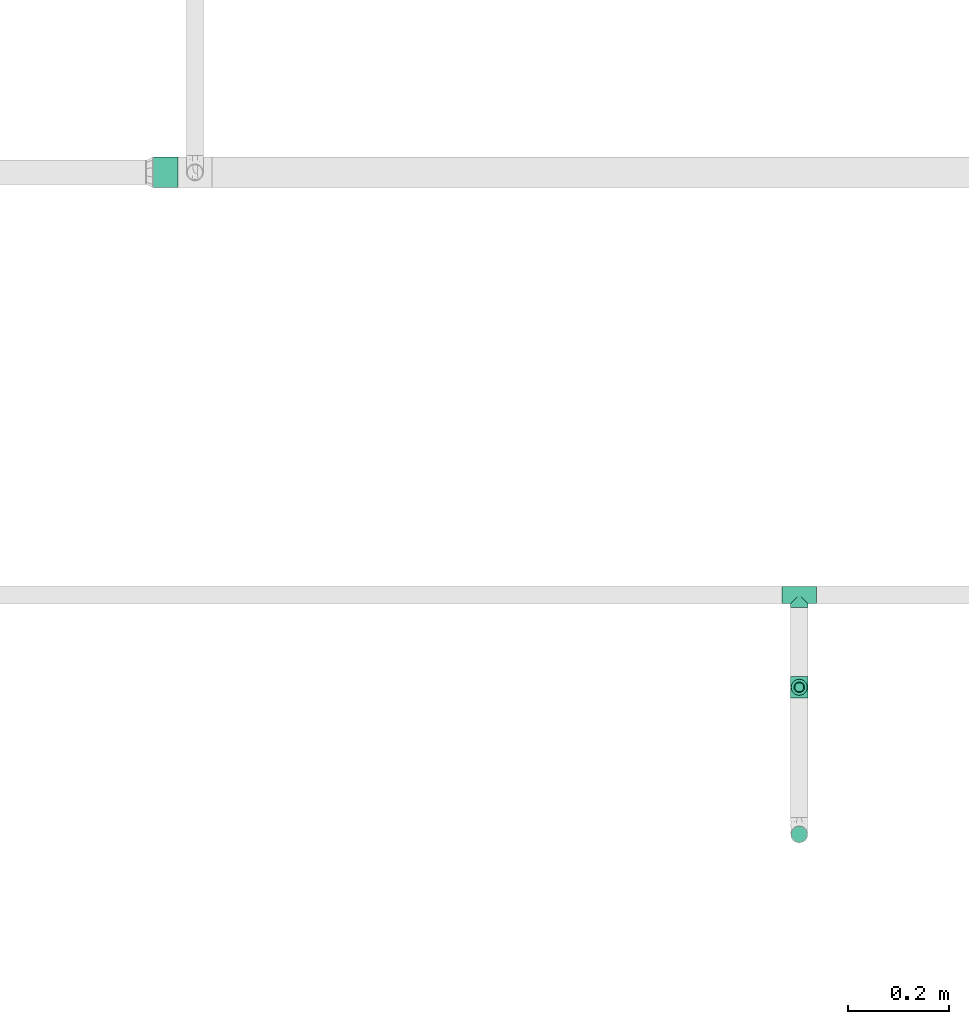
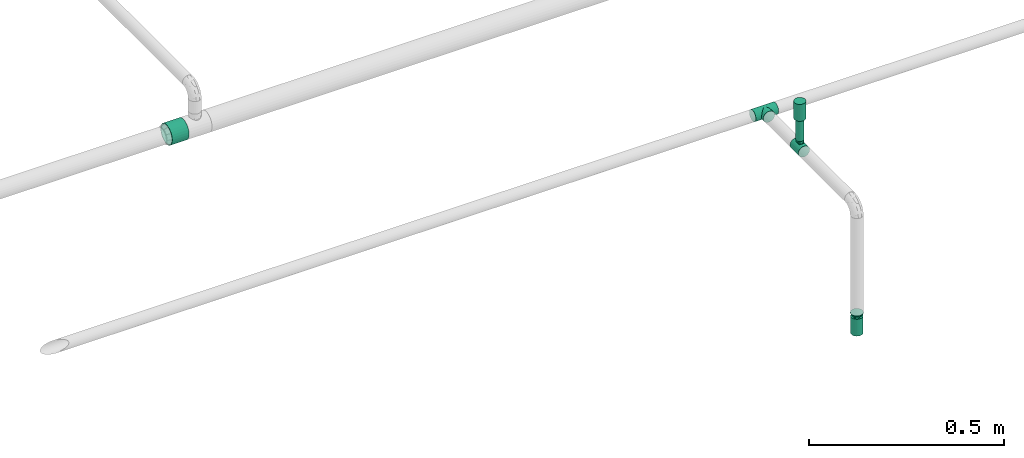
# One storey, part 43 of 51: 3 flow fittings, 2 flow segments, 2 flow terminals.
"""IFC2X3 building model written with IfcOpenShell, lengths in millimetres."""

from ifc_helpers import new_model, entity, si_unit, converted_unit, derived_unit, direction, frame, origin_with_axes, origin_2d_with_axis, place, context, subcontext, project, spatial, hollow_circle, extrude, open_shell, surface_model, source, transform, mapped, type_object, element, save


model = new_model("IFC2X3")

# Units and contexts
model_context = context("Model", 3, precision=0.01, world=frame((0.0, 4.29681676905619e-09, 0.0)), true_north=direction((4.01073788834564e-13, 1.0)))
plan_context = context("Plan", 3, precision=0.01, world=frame((0.0, 4.29681676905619e-09, 0.0)), true_north=direction((4.01073788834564e-13, 1.0)))
body_context = subcontext(model_context, "Body", "Model", "MODEL_VIEW")
ifc_project = project(units=[converted_unit("PLANEANGLEUNIT", "DEGREE", entity("IfcPositiveLengthMeasure", 0.0174532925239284), si_unit("PLANEANGLEUNIT", "RADIAN"), dimensions=[0, 0, 0, 0, 0, 0, 0]), si_unit("AREAUNIT", "SQUARE_METRE"), si_unit("LENGTHUNIT", "METRE", prefix="MILLI"), si_unit("MASSUNIT", "GRAM", prefix="KILO"), si_unit("POWERUNIT", "WATT"), si_unit("PRESSUREUNIT", "PASCAL"), si_unit("FORCEUNIT", "NEWTON", prefix="KILO"), si_unit("ELECTRICVOLTAGEUNIT", "VOLT"), si_unit("ELECTRICCURRENTUNIT", "AMPERE"), si_unit("THERMODYNAMICTEMPERATUREUNIT", "DEGREE_CELSIUS"), si_unit("TIMEUNIT", "SECOND"), si_unit("VOLUMEUNIT", "CUBIC_METRE"), derived_unit("LINEARVELOCITYUNIT", [(si_unit("LENGTHUNIT", "METRE"), 1), (si_unit("TIMEUNIT", "SECOND"), -1)]), derived_unit("VOLUMETRICFLOWRATEUNIT", [(si_unit("VOLUMEUNIT", "CUBIC_METRE"), 1), (si_unit("TIMEUNIT", "SECOND"), -1)]), derived_unit("THERMALTRANSMITTANCEUNIT", [(si_unit("POWERUNIT", "WATT"), 1), (si_unit("THERMODYNAMICTEMPERATUREUNIT", "KELVIN"), -1), (si_unit("AREAUNIT", "SQUARE_METRE"), -1)]), derived_unit("SOUNDPRESSUREUNIT", [(si_unit("PRESSUREUNIT", "PASCAL"), 1)])], contexts=[model_context, plan_context])

# Site, building, storey
site_placement = place(None, frame((0.0, -4.29681676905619e-09, 0.0), z_axis=(0.0, 0.0, 1.0), x_axis=(1.0, 0.0, 0.0)))
site = spatial("IfcSite", under=ifc_project, at=site_placement, Name="ENGM", CompositionType="ELEMENT")
building_placement = place(site_placement, frame((0.0, 4.29681676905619e-09, 0.0), z_axis=(0.0, 0.0, 1.0), x_axis=(1.0, 0.0, 0.0)))
building = spatial("IfcBuilding", under=site, at=building_placement, Name="TH", CompositionType="ELEMENT")
storey_placement = place(building_placement, frame((0.0, 0.0, 210200.0), z_axis=(0.0, 0.0, 1.0), x_axis=(1.0, 0.0, 0.0)))
storey = spatial("IfcBuildingStorey", under=building, at=storey_placement, Name="Nivå F - 0,7 m", CompositionType="ELEMENT", Elevation=210200.0)

# Flow fittings
pipe_fitting_type_1 = type_object("IfcPipeFittingType", Name="magi_pipe_fe_reducer_centric_short_NOR", PredefinedType="TRANSITION")
shared_shape_1 = source(origin_with_axes(), body_context, "Body", "SurfaceModel", [
    surface_model("IfcShellBasedSurfaceModel", [(-2.0, -7.56604, -7.56604), (-2.0, -10.33541, -2.76936), (-2.0, -5.35, -9.26647), (12.4, 11.9501, 11.9501), (12.4, 0.0, 16.9), (12.4, 11.9501, -11.9501), (12.4, 16.9, 0.0), (0.0, -10.7, 0.0), (0.0, -5.35, 9.26647), (0.0, -5.35, -9.26647), (12.4, -15.66253, -2.98753), (12.4, -16.9, 0.0), (12.4, -11.9501, -11.9501), (0.0, -6.6875, -6.94985), (12.4, -8.96258, -13.18758), (0.0, 10.7, 0.0), (12.4, 15.66253, -2.98753), (12.4, -5.97505, -14.42505), (12.4, 8.96258, -13.18758), (0.0, 6.6875, -6.94985), (12.4, 5.97505, -14.42505), (0.0, 5.35, -9.26647), (0.0, -9.3625, -2.31662), (0.0, -8.025, -4.63324), (12.4, -14.42505, -5.97505), (12.4, 14.42505, -5.97505), (0.0, 8.025, -4.63324), (0.0, 9.3625, -2.31662), (12.4, 13.18758, -8.96258), (12.4, -13.18758, -8.96258), (12.4, 15.66253, 2.98753), (0.0, 6.6875, 6.94985), (12.4, 8.96258, 13.18758), (12.4, -15.66253, 2.98753), (0.0, 5.35, 9.26647), (12.4, 5.97505, 14.42505), (12.4, -8.96258, 13.18758), (0.0, -6.6875, 6.94985), (12.4, -11.9501, 11.9501), (12.4, -5.97505, 14.42505), (0.0, 9.3625, 2.31662), (0.0, 8.025, 4.63324), (12.4, 14.42505, 5.97505), (12.4, -14.42505, 5.97505), (0.0, -8.025, 4.63324), (0.0, -9.3625, 2.31662), (12.4, -13.18758, 8.96258), (12.4, 13.18758, 8.96258), (14.4, -11.9501, -11.9501), (14.4, -8.45, -14.63583), (14.4, -4.37404, -16.32415), (14.4, 8.45, -14.63583), (14.4, 16.9, 0.0), (14.4, -14.63583, -8.45), (14.4, -16.32415, -4.37404), (14.4, -4.37404, 16.32415), (14.4, 4.37404, -16.32415), (14.4, 0.0, -16.9), (14.4, 14.63583, -8.45), (14.4, 16.32415, -4.37404), (14.4, 11.9501, -11.9501), (14.4, -16.32415, 4.37404), (14.4, -16.9, 0.0), (14.4, -11.9501, 11.9501), (14.4, -14.63583, 8.45), (14.4, -8.45, 14.63583), (14.4, 0.0, 16.9), (14.4, 16.32415, 4.37404), (14.4, 14.63583, 8.45), (14.4, 11.9501, 11.9501), (14.4, 8.45, 14.63583), (14.4, 4.37404, 16.32415), (12.4, 14.63583, 8.45), (12.4, -4.37404, 16.32415), (12.4, -8.45, 14.63583), (12.4, -16.32415, 4.37404), (12.4, -14.63583, 8.45), (12.4, 8.45, 14.63583), (12.4, 4.37404, 16.32415), (12.4, 16.32415, 4.37404), (12.4, 16.32415, -4.37404), (12.4, 8.45, -14.63583), (12.4, -16.32415, -4.37404), (12.4, -14.63583, -8.45), (12.4, -4.37404, -16.32415), (12.4, -8.45, -14.63583), (12.4, 14.63583, -8.45), (12.4, 4.37404, -16.32415), (12.4, 0.0, -16.9), (-2.0, -2.76936, 10.33541), (-2.0, 0.0, 10.7), (-2.0, -10.33541, 2.76936), (-2.0, -5.35, 9.26647), (-2.0, -7.56604, 7.56604), (-2.0, -9.26647, 5.35), (-2.0, 9.26647, 5.35), (-2.0, 5.35, 9.26647), (-2.0, 7.56604, 7.56604), (-2.0, 2.76936, 10.33541), (-2.0, 10.7, 0.0), (-2.0, 10.33541, -2.76936), (-2.0, 10.33541, 2.76936), (-2.0, -9.26647, -5.35), (-2.0, 5.35, -9.26647), (-2.0, -2.76936, -10.33541), (-2.0, 9.26647, -5.35), (-2.0, 7.56604, -7.56604), (-2.0, 2.76936, -10.33541), (-2.0, 0.0, -10.7), (-2.0, -10.7, 0.0), (0.0, -2.76936, -10.33541), (0.0, 0.0, -10.7), (0.0, -7.56604, -7.56604), (0.0, -10.33541, -2.76936), (0.0, 10.33541, -2.76936), (0.0, -9.26647, -5.35), (0.0, 9.26647, 5.35), (0.0, 2.76936, -10.33541), (0.0, 9.26647, -5.35), (0.0, 7.56604, -7.56604), (0.0, -10.33541, 2.76936), (0.0, -7.56604, 7.56604), (0.0, -9.26647, 5.35), (0.0, 0.0, 10.7), (0.0, -2.76936, 10.33541), (0.0, 10.33541, 2.76936), (0.0, 2.76936, 10.33541), (0.0, 7.56604, 7.56604), (12.4, -2.98753, -15.66253), (0.0, -2.675, -9.26647), (0.0, 2.675, -9.26647), (12.4, 2.98753, -15.66253), (0.0, 0.0, -9.26647), (12.4, 2.98753, 15.66253), (0.0, 2.675, 9.26647), (0.0, -2.675, 9.26647), (12.4, -2.98753, 15.66253), (0.0, 0.0, 9.26647)], [open_shell([[[0, 1, 2]], [[3, 4, 5]], [[5, 6, 3]], [[7, 8, 9]], [[10, 11, 7]], [[12, 13, 14]], [[15, 6, 16]], [[9, 17, 14]], [[18, 19, 5]], [[18, 20, 21]], [[22, 23, 24]], [[25, 26, 27]], [[26, 25, 28]], [[29, 24, 23]], [[30, 6, 15]], [[3, 31, 32]], [[7, 11, 33]], [[34, 35, 32]], [[36, 37, 38]], [[36, 39, 8]], [[40, 41, 42]], [[43, 44, 45]], [[44, 43, 46]], [[47, 42, 41]], [[48, 49, 50]], [[48, 50, 51]], [[51, 52, 48]], [[53, 48, 54]], [[48, 55, 54]], [[56, 51, 57]], [[51, 50, 57]], [[58, 59, 60]], [[51, 60, 59]], [[59, 52, 51]], [[61, 62, 54]], [[63, 64, 61]], [[55, 63, 61]], [[48, 52, 55]], [[65, 63, 55]], [[66, 55, 52]], [[67, 68, 66]], [[66, 52, 67]], [[69, 70, 68]], [[70, 66, 68]], [[71, 66, 70]], [[61, 54, 55]], [[4, 72, 73]], [[74, 73, 75]], [[75, 76, 38]], [[74, 75, 38]], [[75, 73, 72]], [[3, 72, 77]], [[4, 78, 77]], [[77, 72, 4]], [[75, 72, 79]], [[6, 80, 79]], [[81, 75, 79]], [[12, 82, 75]], [[83, 82, 12]], [[84, 85, 12]], [[12, 75, 81]], [[12, 81, 84]], [[86, 5, 80]], [[81, 80, 5]], [[87, 88, 81]], [[81, 79, 80]], [[81, 88, 84]], [[11, 75, 82]], [[6, 59, 80]], [[80, 58, 86]], [[81, 5, 51]], [[60, 5, 86]], [[87, 81, 56]], [[59, 58, 80]], [[6, 52, 59]], [[81, 51, 56]], [[51, 5, 60]], [[86, 58, 60]], [[87, 56, 57]], [[57, 88, 87]], [[88, 50, 84]], [[84, 49, 85]], [[83, 12, 53]], [[48, 12, 85]], [[82, 83, 54]], [[49, 48, 85]], [[84, 50, 49]], [[82, 54, 62]], [[54, 83, 53]], [[12, 48, 53]], [[82, 62, 11]], [[57, 50, 88]], [[11, 61, 75]], [[75, 64, 76]], [[74, 38, 65]], [[63, 38, 76]], [[73, 74, 55]], [[61, 64, 75]], [[11, 62, 61]], [[74, 65, 55]], [[65, 38, 63]], [[76, 64, 63]], [[73, 55, 66]], [[66, 4, 73]], [[4, 71, 78]], [[78, 70, 77]], [[72, 3, 68]], [[69, 3, 77]], [[79, 72, 67]], [[70, 69, 77]], [[78, 71, 70]], [[79, 67, 52]], [[67, 72, 68]], [[3, 69, 68]], [[79, 52, 6]], [[66, 71, 4]], [[89, 90, 91]], [[92, 89, 93]], [[91, 94, 93]], [[89, 91, 93]], [[95, 91, 90]], [[96, 97, 98]], [[95, 98, 97]], [[99, 100, 101]], [[90, 98, 95]], [[100, 95, 101]], [[1, 91, 95]], [[1, 95, 100]], [[102, 1, 0]], [[100, 2, 1]], [[2, 103, 104]], [[105, 106, 100]], [[103, 100, 106]], [[107, 108, 103]], [[2, 100, 103]], [[103, 108, 104]], [[109, 91, 1]], [[110, 111, 9]], [[112, 9, 113]], [[113, 9, 114]], [[115, 112, 113]], [[113, 114, 116]], [[117, 21, 111]], [[21, 9, 111]], [[118, 114, 119]], [[21, 119, 114]], [[21, 114, 9]], [[120, 7, 113]], [[121, 122, 120]], [[116, 121, 113]], [[121, 123, 124]], [[8, 121, 124]], [[123, 121, 116]], [[15, 125, 114]], [[114, 125, 116]], [[34, 126, 127]], [[116, 127, 126]], [[116, 126, 123]], [[121, 120, 113]], [[99, 114, 100]], [[100, 118, 105]], [[103, 106, 21]], [[119, 106, 105]], [[107, 103, 117]], [[114, 118, 100]], [[99, 15, 114]], [[103, 21, 117]], [[21, 106, 119]], [[105, 118, 119]], [[107, 117, 111]], [[111, 108, 107]], [[108, 110, 104]], [[104, 9, 2]], [[102, 0, 115]], [[112, 0, 2]], [[1, 102, 113]], [[9, 112, 2]], [[104, 110, 9]], [[1, 113, 7]], [[113, 102, 115]], [[0, 112, 115]], [[1, 7, 109]], [[111, 110, 108]], [[109, 120, 91]], [[91, 122, 94]], [[92, 93, 8]], [[121, 93, 94]], [[89, 92, 124]], [[120, 122, 91]], [[109, 7, 120]], [[92, 8, 124]], [[8, 93, 121]], [[94, 122, 121]], [[89, 124, 123]], [[123, 90, 89]], [[90, 126, 98]], [[98, 34, 96]], [[95, 97, 116]], [[127, 97, 96]], [[101, 95, 125]], [[34, 127, 96]], [[98, 126, 34]], [[101, 125, 15]], [[125, 95, 116]], [[97, 127, 116]], [[101, 15, 99]], [[123, 126, 90]], [[4, 38, 11]], [[11, 88, 5]], [[88, 11, 12]], [[4, 11, 5]], [[8, 34, 15]], [[21, 9, 15]], [[8, 15, 9]], [[128, 17, 129]], [[16, 25, 27]], [[130, 21, 20]], [[18, 21, 19]], [[24, 10, 22]], [[26, 28, 19]], [[20, 131, 130]], [[9, 129, 17]], [[13, 12, 29]], [[9, 14, 13]], [[129, 132, 128]], [[130, 131, 132]], [[29, 23, 13]], [[132, 131, 88]], [[16, 27, 15]], [[22, 10, 7]], [[5, 19, 28]], [[132, 88, 128]], [[133, 35, 134]], [[33, 43, 45]], [[135, 8, 39]], [[36, 8, 37]], [[42, 30, 40]], [[44, 46, 37]], [[39, 136, 135]], [[34, 134, 35]], [[31, 3, 47]], [[34, 32, 31]], [[134, 137, 133]], [[135, 136, 137]], [[47, 41, 31]], [[137, 136, 4]], [[33, 45, 7]], [[40, 30, 15]], [[38, 37, 46]], [[137, 4, 133]]])]),
])
flow_fitting_1_placement = place(storey_placement, frame((906700.0, 485725.40642, 2596.95199999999), z_axis=(1.0, 0.0, 0.0), x_axis=(0.0, 0.0, 1.0)))
element("IfcFlowFitting", 1, at=flow_fitting_1_placement, inside=storey, type_object=pipe_fitting_type_1, Name="magi_pipe_fe_reducer_centric_short_NOR", context=body_context, shape_type="MappedRepresentation", body=[
    mapped(shared_shape_1, transform((0.0, 0.0, 0.0), scale=1.0)),
])
pipe_fitting_type_2 = type_object("IfcPipeFittingType", Name="magi_pipe_fe_tee_centric_90_NOR", PredefinedType="JUNCTION")
shared_shape_2 = source(origin_with_axes(), body_context, "Body", "SurfaceModel", [
    surface_model("IfcShellBasedSurfaceModel", [(-33.8, 4.37404, -16.32415), (-33.8, 0.0, -16.9), (-33.8, 16.32415, -4.37404), (-33.8, 8.45, -14.63583), (-33.8, 11.9501, -11.9501), (-33.8, 14.63583, -8.45), (-33.8, -16.9, 0.0), (-33.8, -11.9501, -11.9501), (-33.8, -14.63583, -8.45), (-33.8, -8.45, -14.63583), (-33.8, -4.37404, -16.32415), (-33.8, -16.32415, -4.37404), (-33.8, 14.63583, 8.45), (-33.8, 16.32415, 4.37404), (-33.8, -8.45, 14.63583), (-33.8, 8.45, 14.63583), (-33.8, 11.9501, 11.9501), (-33.8, 4.37404, 16.32415), (-33.8, 0.0, 16.9), (-33.8, -11.9501, 11.9501), (-33.8, -14.63583, 8.45), (-33.8, -16.32415, 4.37404), (-33.8, -4.37404, 16.32415), (-33.8, 16.9, 0.0), (33.8, 4.37404, -16.32415), (33.8, -16.9, 0.0), (33.8, 0.0, -16.9), (33.8, 14.63583, -8.45), (33.8, 8.45, -14.63583), (33.8, 16.32415, -4.37404), (33.8, 11.9501, -11.9501), (33.8, -16.32415, 4.37404), (33.8, -8.45, -14.63583), (33.8, -4.37404, -16.32415), (33.8, -11.9501, -11.9501), (33.8, -14.63583, -8.45), (33.8, -16.32415, -4.37404), (33.8, 16.32415, 4.37404), (33.8, 8.45, 14.63583), (33.8, 14.63583, 8.45), (33.8, 11.9501, 11.9501), (33.8, -8.45, 14.63583), (33.8, 4.37404, 16.32415), (33.8, -14.63583, 8.45), (33.8, -11.9501, 11.9501), (33.8, 0.0, 16.9), (33.8, -4.37404, 16.32415), (33.8, 16.9, 0.0), (16.28698, -16.28698, 4.51047), (16.9, -16.9, 0.0), (14.62704, -14.62704, 8.4652), (9.47213, -9.47213, 13.99602), (12.26343, -12.26343, 11.62834), (-16.9, -16.9, 0.0), (-16.28698, -16.28698, 4.51047), (-14.62704, -14.62704, 8.4652), (-12.26343, -12.26343, 11.62834), (-9.47213, -9.47213, 13.99602), (-6.42894, -6.42894, 15.62942), (6.42894, -6.42894, 15.62942), (3.24522, -3.24522, 16.58549), (0.0, 0.0, 16.9), (-3.24522, -3.24522, 16.58549), (3.24522, -3.24522, -16.58549), (0.0, 0.0, -16.9), (-3.24522, -3.24522, -16.58549), (-6.42894, -6.42894, -15.62942), (6.42894, -6.42894, -15.62942), (9.47213, -9.47213, -13.99602), (12.26343, -12.26343, -11.62834), (14.62704, -14.62704, -8.4652), (16.28698, -16.28698, -4.51047), (-9.47213, -9.47213, -13.99602), (-12.26343, -12.26343, -11.62834), (-16.28698, -16.28698, -4.51047), (-14.62704, -14.62704, -8.4652), (4.37404, -25.35, -16.32415), (-16.9, -25.35, 0.0), (0.0, -25.35, -16.9), (14.63583, -25.35, -8.45), (8.45, -25.35, -14.63583), (16.32415, -25.35, -4.37404), (11.9501, -25.35, -11.9501), (-11.9501, -25.35, -11.9501), (-8.45, -25.35, -14.63583), (-4.37404, -25.35, -16.32415), (-14.63583, -25.35, -8.45), (-16.32415, -25.35, -4.37404), (16.9, -25.35, 0.0), (8.45, -25.35, 14.63583), (16.32415, -25.35, 4.37404), (14.63583, -25.35, 8.45), (-8.45, -25.35, 14.63583), (11.9501, -25.35, 11.9501), (4.37404, -25.35, 16.32415), (-16.32415, -25.35, 4.37404), (-11.9501, -25.35, 11.9501), (-14.63583, -25.35, 8.45), (0.0, -25.35, 16.9), (-4.37404, -25.35, 16.32415)], [open_shell([[[0, 1, 2]], [[3, 0, 4]], [[0, 2, 5]], [[4, 0, 5]], [[6, 2, 1]], [[7, 8, 9]], [[1, 10, 9]], [[11, 6, 8]], [[1, 9, 8]], [[1, 8, 6]], [[6, 12, 2]], [[12, 13, 2]], [[14, 12, 6]], [[12, 14, 15]], [[16, 12, 15]], [[17, 15, 18]], [[19, 14, 20]], [[21, 20, 14]], [[22, 18, 14]], [[14, 6, 21]], [[14, 18, 15]], [[23, 2, 13]], [[24, 25, 26]], [[27, 24, 28]], [[27, 29, 24]], [[27, 28, 30]], [[31, 25, 24]], [[26, 32, 33]], [[26, 34, 32]], [[35, 25, 36]], [[35, 34, 26]], [[25, 35, 26]], [[24, 29, 31]], [[29, 37, 38]], [[38, 37, 39]], [[38, 31, 29]], [[38, 39, 40]], [[41, 38, 42]], [[43, 41, 44]], [[41, 43, 31]], [[41, 45, 46]], [[41, 31, 38]], [[42, 45, 41]], [[29, 47, 37]], [[31, 43, 48]], [[25, 31, 49]], [[49, 31, 48]], [[43, 50, 48]], [[44, 41, 51]], [[50, 43, 52]], [[51, 52, 44]], [[52, 43, 44]], [[53, 54, 21]], [[53, 21, 6]], [[21, 54, 20]], [[54, 55, 20]], [[56, 57, 19]], [[19, 20, 56]], [[19, 57, 14]], [[56, 20, 55]], [[14, 57, 58]], [[51, 41, 59]], [[60, 45, 61]], [[59, 46, 60]], [[46, 59, 41]], [[60, 46, 45]], [[61, 45, 42]], [[39, 37, 13]], [[16, 38, 40]], [[12, 40, 39]], [[42, 38, 15]], [[23, 37, 47]], [[62, 61, 18]], [[62, 22, 58]], [[22, 62, 18]], [[58, 22, 14]], [[61, 17, 18]], [[42, 17, 61]], [[15, 17, 42]], [[15, 38, 16]], [[12, 16, 40]], [[13, 12, 39]], [[37, 23, 13]], [[5, 27, 30]], [[23, 47, 29]], [[30, 28, 3]], [[27, 2, 29]], [[26, 33, 63]], [[26, 64, 24]], [[64, 26, 63]], [[28, 24, 0]], [[64, 0, 24]], [[4, 30, 3]], [[2, 27, 5]], [[5, 30, 4]], [[2, 23, 29]], [[65, 66, 10]], [[1, 0, 64]], [[1, 65, 10]], [[66, 9, 10]], [[0, 3, 28]], [[1, 64, 65]], [[63, 33, 67]], [[32, 34, 68]], [[69, 68, 34]], [[35, 70, 69]], [[69, 34, 35]], [[32, 68, 67]], [[36, 25, 49]], [[36, 71, 35]], [[71, 36, 49]], [[35, 71, 70]], [[72, 9, 66]], [[72, 7, 9]], [[7, 72, 73]], [[7, 73, 8]], [[74, 53, 11]], [[75, 74, 8]], [[74, 11, 8]], [[11, 53, 6]], [[75, 8, 73]], [[32, 67, 33]], [[76, 77, 78]], [[79, 76, 80]], [[79, 81, 76]], [[79, 80, 82]], [[77, 76, 81]], [[78, 83, 84]], [[84, 85, 78]], [[86, 77, 87]], [[83, 78, 86]], [[77, 86, 78]], [[81, 88, 77]], [[89, 88, 90]], [[89, 90, 91]], [[92, 77, 89]], [[89, 91, 93]], [[92, 89, 94]], [[95, 96, 97]], [[96, 95, 92]], [[92, 98, 99]], [[95, 77, 92]], [[94, 98, 92]], [[89, 77, 88]], [[77, 95, 53]], [[54, 53, 95]], [[97, 96, 56]], [[96, 92, 57]], [[95, 97, 54]], [[58, 92, 99]], [[55, 54, 97]], [[56, 55, 97]], [[58, 57, 92]], [[98, 61, 62]], [[58, 99, 62]], [[56, 96, 57]], [[62, 99, 98]], [[94, 60, 98]], [[89, 59, 94]], [[91, 90, 48]], [[52, 93, 91]], [[93, 51, 89]], [[49, 90, 88]], [[59, 60, 94]], [[51, 59, 89]], [[49, 48, 90]], [[50, 52, 91]], [[48, 50, 91]], [[51, 93, 52]], [[98, 60, 61]], [[88, 81, 49]], [[71, 49, 81]], [[79, 82, 69]], [[82, 80, 68]], [[81, 79, 71]], [[67, 80, 76]], [[70, 71, 79]], [[69, 70, 79]], [[67, 68, 80]], [[78, 64, 63]], [[67, 76, 63]], [[69, 82, 68]], [[63, 76, 78]], [[85, 65, 78]], [[84, 66, 85]], [[86, 87, 74]], [[86, 73, 83]], [[72, 84, 83]], [[53, 87, 77]], [[66, 65, 85]], [[72, 66, 84]], [[53, 74, 87]], [[75, 73, 86]], [[74, 75, 86]], [[72, 83, 73]], [[78, 65, 64]]])]),
])
flow_fitting_2_placement = place(storey_placement, frame((906700.0, 486201.02538, 2949.56988), z_axis=(0.0, 0.0, -1.0), x_axis=(-1.0, 0.0, 0.0)))
element("IfcFlowFitting", 2, at=flow_fitting_2_placement, inside=storey, type_object=pipe_fitting_type_2, Name="magi_pipe_fe_tee_centric_90_NOR", context=body_context, shape_type="MappedRepresentation", body=[
    mapped(shared_shape_2, transform((0.0, 0.0, 0.0), scale=1.0)),
])
shared_shape_3 = source(origin_with_axes(), body_context, "Body", "SurfaceModel", [
    surface_model("IfcShellBasedSurfaceModel", [(-21.4, 0.0, -16.9), (-21.4, -16.9, 0.0), (-21.4, 4.37404, -16.32415), (-21.4, 8.45, -14.63583), (-21.4, 11.9501, -11.9501), (-21.4, 16.32415, -4.37404), (-21.4, 14.63583, -8.45), (-21.4, -16.32415, 4.37404), (-21.4, -11.9501, -11.9501), (-21.4, -14.63583, -8.45), (-21.4, -8.45, -14.63583), (-21.4, -4.37404, -16.32415), (-21.4, -16.32415, -4.37404), (-21.4, 16.32415, 4.37404), (-21.4, 16.9, 0.0), (-21.4, 8.45, 14.63583), (-21.4, 14.63583, 8.45), (-21.4, -8.45, 14.63583), (-21.4, 11.9501, 11.9501), (-21.4, 4.37404, 16.32415), (-21.4, -11.9501, 11.9501), (-21.4, -14.63583, 8.45), (-21.4, -4.37404, 16.32415), (-21.4, 0.0, 16.9), (21.4, 4.37404, -16.32415), (21.4, -16.32415, -4.37404), (21.4, 0.0, -16.9), (21.4, 14.63583, -8.45), (21.4, 8.45, -14.63583), (21.4, 8.45, 14.63583), (21.4, 11.9501, -11.9501), (21.4, -11.9501, -11.9501), (21.4, -8.45, -14.63583), (21.4, -4.37404, -16.32415), (21.4, -14.63583, -8.45), (21.4, -16.9, 0.0), (21.4, 16.32415, -4.37404), (21.4, 16.32415, 4.37404), (21.4, 14.63583, 8.45), (21.4, -8.45, 14.63583), (21.4, 11.9501, 11.9501), (21.4, 4.37404, 16.32415), (21.4, -14.63583, 8.45), (21.4, -11.9501, 11.9501), (21.4, -16.32415, 4.37404), (21.4, 0.0, 16.9), (21.4, -4.37404, 16.32415), (21.4, 16.9, 0.0), (10.02449, -16.48061, 3.7416), (10.7, -16.9, 0.0), (8.16297, -15.41927, 6.9178), (5.39457, -14.14996, 9.24059), (21.4, -15.47999, 6.41202), (1.90748, -13.21962, 10.5286), (-8.16537, -15.42055, 6.91497), (-21.4, -15.47999, 6.41202), (-10.02486, -16.48083, 3.74061), (-21.4, -16.61207, 2.18702), (-10.36243, -16.69042, 1.8703), (-10.7, -16.9, 0.0), (-5.39553, -14.15033, 9.24003), (-1.91068, -13.22009, 10.52802), (-8.16537, -15.42055, -6.91497), (-21.4, -15.47999, -6.41202), (8.16297, -15.41927, -6.9178), (21.4, -15.47999, -6.41202), (-10.36243, -16.69042, -1.8703), (5.39457, -14.14996, -9.24059), (-21.4, -16.61207, -2.18702), (-10.02486, -16.48083, -3.74061), (1.90748, -13.21962, -10.5286), (10.02449, -16.48061, -3.7416), (-1.91068, -13.22009, -10.52802), (-5.39553, -14.15033, -9.24003), (0.0, -25.35, -10.7), (2.76936, -25.35, -10.33541), (5.35, -25.35, -9.26647), (7.56604, -25.35, -7.56604), (10.33541, -25.35, 2.76936), (9.26647, -25.35, -5.35), (-7.56604, -25.35, -7.56604), (2.76936, -25.35, 10.33541), (-10.7, -25.35, 0.0), (-5.35, -25.35, -9.26647), (-2.76936, -25.35, -10.33541), (-9.26647, -25.35, -5.35), (-10.33541, -25.35, -2.76936), (10.7, -25.35, 0.0), (10.33541, -25.35, -2.76936), (9.26647, -25.35, 5.35), (5.35, -25.35, 9.26647), (7.56604, -25.35, 7.56604), (0.0, -25.35, 10.7), (-10.33541, -25.35, 2.76936), (-7.56604, -25.35, 7.56604), (-9.26647, -25.35, 5.35), (-2.76936, -25.35, 10.33541), (-5.35, -25.35, 9.26647)], [open_shell([[[0, 1, 2]], [[3, 2, 4]], [[2, 5, 6]], [[4, 2, 6]], [[2, 1, 7]], [[8, 9, 10]], [[0, 11, 10]], [[12, 1, 9]], [[10, 9, 1]], [[10, 1, 0]], [[7, 5, 2]], [[13, 14, 15]], [[16, 13, 15]], [[17, 15, 14]], [[18, 16, 15]], [[19, 15, 17]], [[20, 17, 21]], [[7, 21, 17]], [[22, 23, 17]], [[14, 7, 17]], [[17, 23, 19]], [[5, 7, 14]], [[24, 25, 26]], [[27, 24, 28]], [[25, 24, 29]], [[27, 28, 30]], [[29, 24, 27]], [[26, 31, 32]], [[32, 33, 26]], [[26, 25, 34]], [[31, 26, 34]], [[35, 25, 29]], [[27, 36, 37]], [[37, 38, 27]], [[27, 38, 29]], [[39, 35, 29]], [[29, 38, 40]], [[39, 29, 41]], [[42, 39, 43]], [[39, 42, 44]], [[39, 45, 46]], [[44, 35, 39]], [[41, 45, 39]], [[36, 47, 37]], [[35, 44, 48]], [[48, 49, 35]], [[44, 50, 48]], [[42, 43, 51]], [[50, 44, 52]], [[51, 50, 42]], [[53, 51, 43]], [[43, 20, 53]], [[42, 50, 52]], [[54, 21, 55]], [[56, 57, 58]], [[59, 58, 1]], [[56, 54, 7]], [[60, 61, 20]], [[1, 58, 57]], [[60, 21, 54]], [[21, 60, 20]], [[54, 55, 7]], [[61, 53, 20]], [[56, 7, 57]], [[43, 17, 20]], [[23, 46, 45]], [[22, 39, 46]], [[19, 45, 41]], [[38, 37, 13]], [[18, 29, 40]], [[16, 40, 38]], [[41, 29, 15]], [[14, 37, 47]], [[17, 39, 22]], [[22, 46, 23]], [[19, 23, 45]], [[41, 15, 19]], [[15, 29, 18]], [[16, 18, 40]], [[13, 16, 38]], [[37, 14, 13]], [[39, 17, 43]], [[14, 47, 36]], [[36, 27, 5]], [[30, 6, 27]], [[11, 26, 33]], [[2, 28, 24]], [[62, 12, 63]], [[26, 0, 24]], [[33, 32, 10]], [[30, 28, 3]], [[64, 34, 65]], [[6, 5, 27]], [[14, 36, 5]], [[30, 4, 6]], [[1, 66, 59]], [[3, 28, 2]], [[0, 2, 24]], [[26, 11, 0]], [[33, 10, 11]], [[4, 30, 3]], [[32, 8, 10]], [[31, 34, 67]], [[68, 69, 66]], [[67, 70, 31]], [[34, 64, 67]], [[31, 70, 8]], [[25, 35, 71]], [[71, 64, 25]], [[49, 71, 35]], [[25, 64, 65]], [[72, 73, 8]], [[9, 8, 73]], [[73, 62, 9]], [[72, 8, 70]], [[62, 69, 12]], [[69, 68, 12]], [[66, 1, 68]], [[62, 63, 9]], [[31, 8, 32]], [[74, 75, 76]], [[74, 76, 77]], [[78, 77, 79]], [[74, 77, 80]], [[81, 82, 77]], [[74, 83, 84]], [[74, 80, 83]], [[85, 82, 86]], [[82, 85, 80]], [[77, 82, 80]], [[87, 79, 88]], [[77, 78, 81]], [[81, 78, 89]], [[90, 81, 89]], [[90, 89, 91]], [[92, 82, 81]], [[93, 94, 95]], [[94, 93, 92]], [[94, 96, 97]], [[96, 94, 92]], [[82, 92, 93]], [[79, 87, 78]], [[59, 82, 93]], [[56, 95, 94]], [[93, 95, 59]], [[94, 97, 56]], [[59, 95, 56]], [[54, 56, 96]], [[61, 60, 51]], [[54, 50, 60]], [[96, 92, 54]], [[97, 96, 56]], [[81, 50, 92]], [[90, 48, 81]], [[48, 91, 89]], [[90, 91, 48]], [[49, 89, 78]], [[51, 53, 61]], [[50, 51, 60]], [[89, 49, 48]], [[48, 50, 81]], [[49, 78, 87]], [[54, 92, 50]], [[49, 87, 88]], [[71, 79, 77]], [[88, 79, 49]], [[77, 76, 71]], [[49, 79, 71]], [[64, 71, 75]], [[70, 67, 72]], [[64, 73, 67]], [[75, 74, 64]], [[76, 75, 71]], [[62, 74, 84]], [[83, 69, 84]], [[69, 80, 85]], [[83, 80, 69]], [[59, 85, 86]], [[73, 72, 67]], [[62, 73, 64]], [[85, 59, 69]], [[69, 62, 84]], [[59, 86, 82]], [[64, 74, 62]]])]),
])
flow_fitting_3_placement = place(storey_placement, frame((906700.0, 486017.4438, 2949.57822), z_axis=(1.0, 0.0, 0.0), x_axis=(0.0, -0.9999999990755, 4.29999999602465e-05)))
element("IfcFlowFitting", 3, at=flow_fitting_3_placement, inside=storey, type_object=pipe_fitting_type_2, Name="magi_pipe_fe_tee_centric_90_NOR", context=body_context, shape_type="MappedRepresentation", body=[
    mapped(shared_shape_3, transform((0.0, 0.0, 0.0), scale=1.0)),
])

# Flow segments
pipe_segment_type = type_object("IfcPipeSegmentType", Name="Stålrør normaltykke", PredefinedType="RIGIDSEGMENT")
shared_shape_4 = source(origin_with_axes(), body_context, "Body", "SweptSolid", [
    extrude(hollow_circle(Radius=30.1, WallThickness=2.0, at=origin_2d_with_axis()), frame((0.0, 0.0, 0.0), z_axis=(1.0, 0.0, 0.0), x_axis=(0.0, 1.0, 0.0)), (0.0, 0.0, 1.0), 50.0),
])
flow_segment_1_placement = place(storey_placement, frame((905466.11443, 487040.10129, 2819.99995999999), z_axis=(0.0, 0.0, 1.0), x_axis=(-1.0, 0.0, 0.0)))
element("IfcFlowSegment", 4, at=flow_segment_1_placement, inside=storey, type_object=pipe_segment_type, Name="Stålrør normaltykke", context=body_context, shape_type="MappedRepresentation", body=[
    mapped(shared_shape_4, transform((0.0, 0.0, 0.0), scale=1.0)),
])
shared_shape_5 = source(origin_with_axes(), body_context, "Body", "SweptSolid", [
    extrude(hollow_circle(Radius=10.7, WallThickness=2.0, at=origin_2d_with_axis()), frame((0.0, 0.0, 0.0), z_axis=(1.0, 0.0, 0.0), x_axis=(0.0, 1.0, 0.0)), (0.0, 0.0, 1.0), 70.1),
])
flow_segment_2_placement = place(storey_placement, frame((906700.0, 486017.44514, 2974.92822), z_axis=(1.0, 0.0, 0.0), x_axis=(0.0, -2.7999999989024e-05, 0.999999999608)))
element("IfcFlowSegment", 5, at=flow_segment_2_placement, inside=storey, type_object=pipe_segment_type, Name="Stålrør normaltykke", context=body_context, shape_type="MappedRepresentation", body=[
    mapped(shared_shape_5, transform((0.0, 0.0, 0.0), scale=1.0)),
])

# Flow terminals
fire_suppression_terminal_type_1 = type_object("IfcFireSuppressionTerminalType", Name="SP-15-K80-68DGR-STD-HIMLING", PredefinedType="NOTDEFINED")
shared_shape_6 = source(origin_with_axes(), body_context, "Body", "SurfaceModel", [
    surface_model("IfcShellBasedSurfaceModel", [(4.1411, -15.45481, 53.0), (8.0, -13.85641, 53.0), (11.31371, -11.31371, 53.0), (-8.0, -13.85641, 53.0), (15.45481, -4.1411, 53.0), (16.0, 0.0, 53.0), (13.85641, -8.0, 53.0), (0.0, -16.0, 53.0), (-4.1411, -15.45481, 53.0), (-13.85641, -8.0, 53.0), (-11.31371, -11.31371, 53.0), (-15.45481, -4.1411, 53.0), (15.45481, 4.1411, 53.0), (13.85641, 8.0, 53.0), (11.31371, 11.31371, 53.0), (-4.1411, 15.45481, 53.0), (8.0, 13.85641, 53.0), (4.1411, 15.45481, 53.0), (0.0, 16.0, 53.0), (-13.85641, 8.0, 53.0), (-15.45481, 4.1411, 53.0), (-16.0, 0.0, 53.0), (-11.31371, 11.31371, 53.0), (-8.0, 13.85641, 53.0), (0.0, 16.0, 0.0), (4.1411, 15.45481, 0.0), (8.0, 13.85641, 0.0), (-4.1411, 15.45481, 0.0), (11.31371, 11.31371, 0.0), (13.85641, 8.0, 0.0), (15.45481, 4.1411, 0.0), (-15.45481, -4.1411, 0.0), (-11.31371, 11.31371, 0.0), (-8.0, 13.85641, 0.0), (-13.85641, 8.0, 0.0), (-15.45481, 4.1411, 0.0), (-16.0, 0.0, 0.0), (4.1411, -15.45481, 0.0), (16.0, 0.0, 0.0), (15.45481, -4.1411, 0.0), (13.85641, -8.0, 0.0), (11.31371, -11.31371, 0.0), (8.0, -13.85641, 0.0), (-8.0, -13.85641, 0.0), (-13.85641, -8.0, 0.0), (-11.31371, -11.31371, 0.0), (0.0, -16.0, 0.0), (-4.1411, -15.45481, 0.0)], [open_shell([[[0, 1, 2]], [[3, 0, 2]], [[4, 5, 2]], [[4, 2, 6]], [[3, 2, 5]], [[7, 3, 8]], [[7, 0, 3]], [[3, 9, 10]], [[9, 3, 11]], [[5, 11, 3]], [[5, 12, 11]], [[12, 13, 14]], [[15, 12, 14]], [[16, 17, 18]], [[14, 16, 15]], [[18, 15, 16]], [[11, 19, 20]], [[21, 11, 20]], [[22, 15, 23]], [[15, 22, 19]], [[19, 11, 15]], [[11, 12, 15]], [[24, 25, 26]], [[27, 24, 26]], [[28, 29, 30]], [[27, 26, 28]], [[27, 28, 31]], [[27, 32, 33]], [[32, 27, 34]], [[34, 31, 35]], [[31, 34, 27]], [[35, 31, 36]], [[28, 30, 31]], [[37, 38, 39]], [[37, 39, 40]], [[41, 42, 37]], [[41, 37, 40]], [[38, 37, 43]], [[44, 43, 45]], [[43, 44, 31]], [[43, 46, 47]], [[43, 31, 38]], [[37, 46, 43]], [[38, 31, 30]], [[11, 31, 44]], [[45, 9, 44]], [[3, 43, 47]], [[45, 43, 10]], [[8, 47, 46]], [[31, 21, 36]], [[31, 11, 21]], [[44, 9, 11]], [[45, 10, 9]], [[3, 10, 43]], [[47, 8, 3]], [[46, 7, 8]], [[0, 37, 42]], [[41, 1, 42]], [[6, 40, 39]], [[41, 40, 2]], [[4, 39, 38]], [[37, 0, 7]], [[42, 1, 0]], [[41, 2, 1]], [[40, 6, 2]], [[4, 6, 39]], [[38, 5, 4]], [[37, 7, 46]], [[12, 38, 30]], [[13, 30, 29]], [[16, 26, 25]], [[17, 25, 24]], [[30, 13, 12]], [[12, 5, 38]], [[28, 14, 13]], [[28, 26, 14]], [[14, 26, 16]], [[25, 17, 16]], [[28, 13, 29]], [[24, 18, 17]], [[15, 27, 33]], [[32, 23, 33]], [[19, 34, 35]], [[32, 34, 22]], [[20, 35, 36]], [[27, 15, 18]], [[33, 23, 15]], [[32, 22, 23]], [[34, 19, 22]], [[20, 19, 35]], [[36, 21, 20]], [[27, 18, 24]]])]),
])
flow_terminal_1_placement = place(storey_placement, frame((906700.0, 485725.40642, 2600.0), z_axis=(0.0, 0.0, -1.0), x_axis=(-1.0, 0.0, 0.0)))
element("IfcFlowTerminal", 6, at=flow_terminal_1_placement, inside=storey, type_object=fire_suppression_terminal_type_1, Name="SP-15-K80-68DGR-STD-HIMLING", context=body_context, shape_type="MappedRepresentation", body=[
    mapped(shared_shape_6, transform((0.0, 0.0, 0.0), scale=1.0)),
])
fire_suppression_terminal_type_2 = type_object("IfcFireSuppressionTerminalType", Name="SP-15-K80-68DGR-STD-STÅENDE", PredefinedType="NOTDEFINED")
flow_terminal_2_placement = place(storey_placement, frame((906700.0, 486017.4438, 3042.0), z_axis=(0.0, 0.0, 1.0), x_axis=(1.0, 0.0, 0.0)))
element("IfcFlowTerminal", 7, at=flow_terminal_2_placement, inside=storey, type_object=fire_suppression_terminal_type_2, Name="SP-15-K80-68DGR-STD-STÅENDE", context=body_context, shape_type="MappedRepresentation", body=[
    mapped(shared_shape_6, transform((0.0, 0.0, 0.0), scale=1.0)),
])

save(model, "model.ifc")
